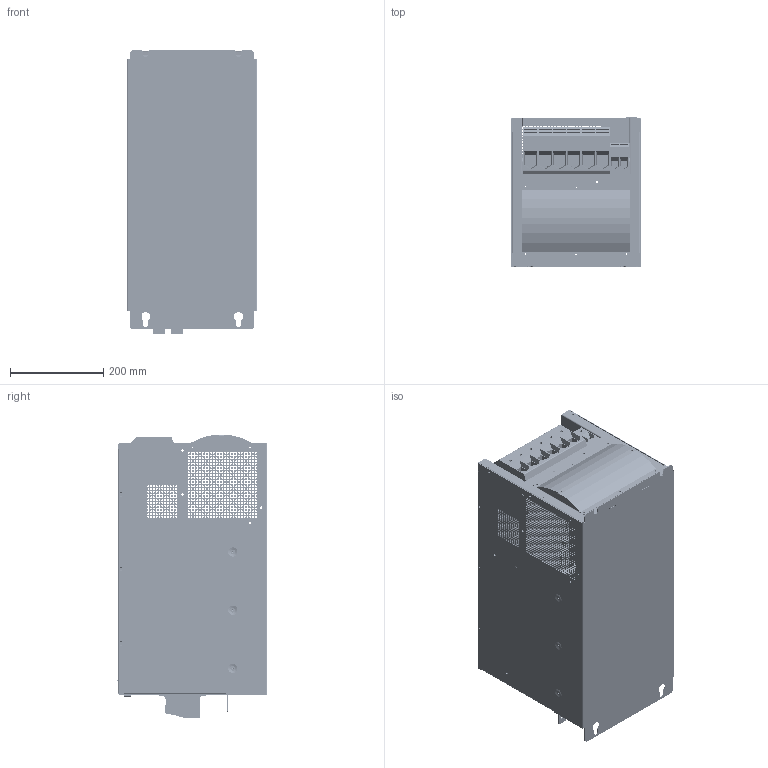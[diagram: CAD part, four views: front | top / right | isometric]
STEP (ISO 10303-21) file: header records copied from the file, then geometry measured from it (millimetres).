
FILE_DESCRIPTION(/* description */ (''),/* implementation_level */ '2;1');
FILE_NAME(/* name */ 'CB01178-001',/* time_stamp */ '2010-05-11T15:36:55+02:00',/* author */ (''),/* organization */ (''),/* preprocessor_version */ 'ST-DEVELOPER v9',/* originating_system */ 'UGS - NX 4.0',/* authorisation */ '');
FILE_SCHEMA (('AUTOMOTIVE_DESIGN { 1 0 10303 214 1 1 1 1 }'));
Length unit declared in the file: millimetre
Products named in the file (1): sdum1C1797o9
Bounding box: 280 x 324.3 x 610 mm (x, y, z)
Volume: 6045650.3 mm3; surface area: 4767425.9 mm2
Topology: 78 solids, 78 shells, 14157 faces, 38641 edges, 25417 vertices
Faces by surface type: plane 7179, bspline 5163, cylinder 1552, cone 254, torus 9
Entity records: 592397 total; most frequent: CARTESIAN_POINT 173021, ORIENTED_EDGE 77090, DIRECTION 49096, EDGE_CURVE 38545, VERTEX_POINT 25417, LINE 24660, VECTOR 24660, EDGE_LOOP 19700
